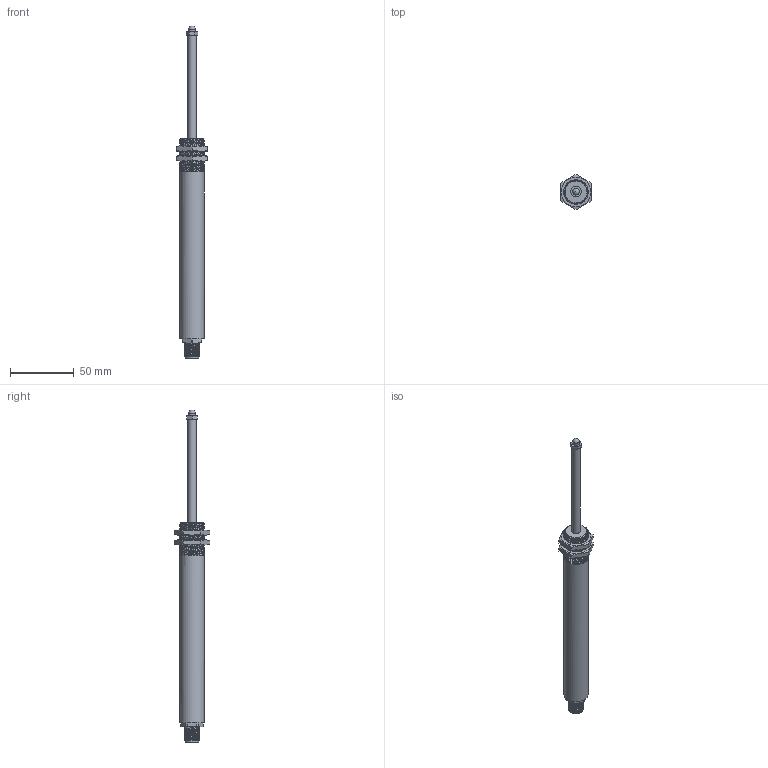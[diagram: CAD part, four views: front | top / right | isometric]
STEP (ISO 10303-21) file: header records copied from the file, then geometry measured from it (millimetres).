
FILE_DESCRIPTION(/* description */ (''),/* implementation_level */ '2;1');
FILE_NAME(/* name */ 'ILPS-18S-075-A-01-YY-Z.stp',/* time_stamp */ '2026-01-27T15:30:10-05:00',/* author */ ('wingm'),/* organization */ (''),/* preprocessor_version */ 'ST-DEVELOPER v20.1',/* originating_system */ 'Autodesk Inventor 2026',/* authorisation */ '');
FILE_SCHEMA (('AUTOMOTIVE_DESIGN { 1 0 10303 214 3 1 1 }'));
Length unit declared in the file: inch
Products named in the file (9): Assembly1; Body; End Cap; Shaft; Lining; Hex Nut; End Cap_1; M12 Connector; #11136
Assembly tree (9 placements, depth 2):
  Assembly1
    Body
    End Cap
    Shaft
    Lining
    Hex Nut  x2
    End Cap_1
    M12 Connector
    #11136
Bounding box: 24 x 27.71 x 259.84 mm (x, y, z)
Volume: 15759.9 mm3; surface area: 30799 mm2
Topology: 18 solids, 18 shells, 167 faces, 383 edges, 252 vertices
Faces by surface type: cylinder 73, plane 64, cone 12, bspline 12, sphere 6
Full cylindrical faces by diameter (mm): 1.05 x5, 1.905 x1, 2.845 x3, 5.08 x1, 6.35 x2, 6.858 x2, 8 x2, 10.6 x2, 12 x10, 13.185 x1, 17.069 x3, 19.05 x28
Entity records: 11215 total; most frequent: CARTESIAN_POINT 7633, ORIENTED_EDGE 660, DIRECTION 618, EDGE_CURVE 330, AXIS2_PLACEMENT_3D 245, VERTEX_POINT 222, EDGE_LOOP 166, FACE_OUTER_BOUND 148
